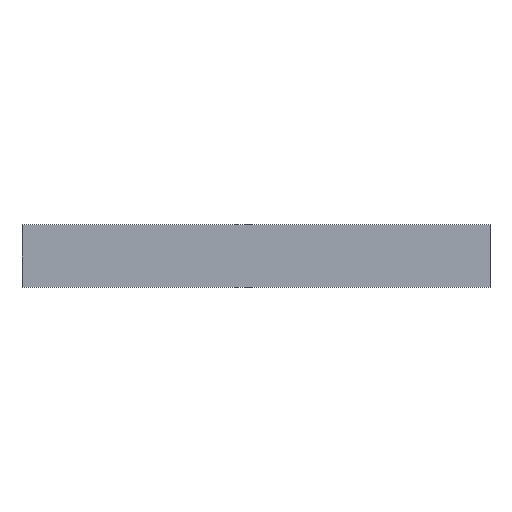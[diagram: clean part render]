
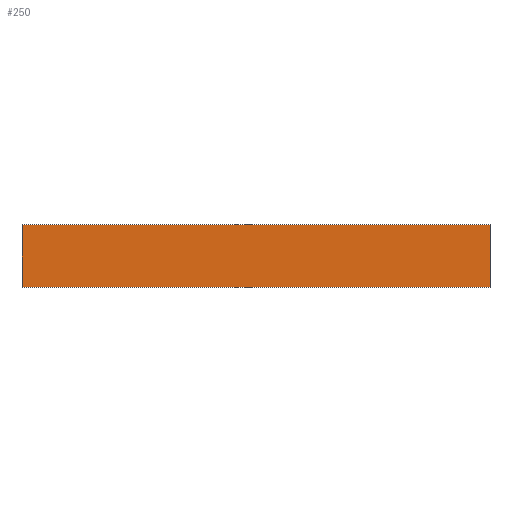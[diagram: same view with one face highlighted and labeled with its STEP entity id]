
A CAD part, top view. The second image highlights one B-rep face of the part: STEP entity #250.
In plain terms, the highlighted planar face has unit normal (0, 0, 1).
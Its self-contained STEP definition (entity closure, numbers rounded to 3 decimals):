
#32 = PLANE('',#33);
#33 = AXIS2_PLACEMENT_3D('',#34,#35,#36);
#34 = CARTESIAN_POINT('',(-400.,-50.,0.));
#35 = DIRECTION('',(0.,1.,0.));
#36 = DIRECTION('',(1.,0.,0.));
#57 = VERTEX_POINT('',#58);
#58 = CARTESIAN_POINT('',(-373.,-50.,3.));
#71 = PLANE('',#72);
#72 = AXIS2_PLACEMENT_3D('',#73,#74,#75);
#73 = CARTESIAN_POINT('',(-373.,-60.,25.));
#74 = DIRECTION('',(-1.,0.,0.));
#75 = DIRECTION('',(0.,0.,-1.));
#82 = EDGE_CURVE('',#57,#83,#85,.T.);
#83 = VERTEX_POINT('',#84);
#84 = CARTESIAN_POINT('',(373.,-50.,3.));
#85 = SURFACE_CURVE('',#86,(#90,#97),.PCURVE_S1.);
#86 = LINE('',#87,#88);
#87 = CARTESIAN_POINT('',(-400.,-50.,3.));
#88 = VECTOR('',#89,1.);
#89 = DIRECTION('',(1.,0.,0.));
#90 = PCURVE('',#32,#91);
#91 = DEFINITIONAL_REPRESENTATION('',(#92),#96);
#92 = LINE('',#93,#94);
#93 = CARTESIAN_POINT('',(0.,-3.));
#94 = VECTOR('',#95,1.);
#95 = DIRECTION('',(1.,0.));
#96 = ( GEOMETRIC_REPRESENTATION_CONTEXT(2) 
PARAMETRIC_REPRESENTATION_CONTEXT() REPRESENTATION_CONTEXT('2D SPACE',''
  ) );
#97 = PCURVE('',#98,#103);
#98 = PLANE('',#99);
#99 = AXIS2_PLACEMENT_3D('',#100,#101,#102);
#100 = CARTESIAN_POINT('',(0.,0.,3.));
#101 = DIRECTION('',(0.,0.,1.));
#102 = DIRECTION('',(1.,0.,-0.));
#103 = DEFINITIONAL_REPRESENTATION('',(#104),#108);
#104 = LINE('',#105,#106);
#105 = CARTESIAN_POINT('',(-400.,-50.));
#106 = VECTOR('',#107,1.);
#107 = DIRECTION('',(1.,0.));
#108 = ( GEOMETRIC_REPRESENTATION_CONTEXT(2) 
PARAMETRIC_REPRESENTATION_CONTEXT() REPRESENTATION_CONTEXT('2D SPACE',''
  ) );
#123 = PLANE('',#124);
#124 = AXIS2_PLACEMENT_3D('',#125,#126,#127);
#125 = CARTESIAN_POINT('',(373.,-60.,-25.));
#126 = DIRECTION('',(1.,0.,0.));
#127 = DIRECTION('',(0.,0.,1.));
#155 = PLANE('',#156);
#156 = AXIS2_PLACEMENT_3D('',#157,#158,#159);
#157 = CARTESIAN_POINT('',(400.,50.,0.));
#158 = DIRECTION('',(0.,-1.,0.));
#159 = DIRECTION('',(-1.,0.,0.));
#209 = EDGE_CURVE('',#83,#210,#212,.T.);
#210 = VERTEX_POINT('',#211);
#211 = CARTESIAN_POINT('',(373.,50.,3.));
#212 = SURFACE_CURVE('',#213,(#217,#223),.PCURVE_S1.);
#213 = LINE('',#214,#215);
#214 = CARTESIAN_POINT('',(373.,-30.,3.));
#215 = VECTOR('',#216,1.);
#216 = DIRECTION('',(0.,1.,0.));
#217 = PCURVE('',#123,#218);
#218 = DEFINITIONAL_REPRESENTATION('',(#219),#222);
#219 = B_SPLINE_CURVE_WITH_KNOTS('',1,(#220,#221),.UNSPECIFIED.,.F.,.F.,
  (2,2),(-20.,80.),.PIECEWISE_BEZIER_KNOTS.);
#220 = CARTESIAN_POINT('',(28.,-10.));
#221 = CARTESIAN_POINT('',(28.,-110.));
#222 = ( GEOMETRIC_REPRESENTATION_CONTEXT(2) 
PARAMETRIC_REPRESENTATION_CONTEXT() REPRESENTATION_CONTEXT('2D SPACE',''
  ) );
#223 = PCURVE('',#98,#224);
#224 = DEFINITIONAL_REPRESENTATION('',(#225),#228);
#225 = B_SPLINE_CURVE_WITH_KNOTS('',1,(#226,#227),.UNSPECIFIED.,.F.,.F.,
  (2,2),(-20.,80.),.PIECEWISE_BEZIER_KNOTS.);
#226 = CARTESIAN_POINT('',(373.,-50.));
#227 = CARTESIAN_POINT('',(373.,50.));
#228 = ( GEOMETRIC_REPRESENTATION_CONTEXT(2) 
PARAMETRIC_REPRESENTATION_CONTEXT() REPRESENTATION_CONTEXT('2D SPACE',''
  ) );
#250 = ADVANCED_FACE('',(#251),#98,.T.);
#251 = FACE_BOUND('',#252,.T.);
#252 = EDGE_LOOP('',(#253,#276,#295,#296));
#253 = ORIENTED_EDGE('',*,*,#254,.T.);
#254 = EDGE_CURVE('',#210,#255,#257,.T.);
#255 = VERTEX_POINT('',#256);
#256 = CARTESIAN_POINT('',(-373.,50.,3.));
#257 = SURFACE_CURVE('',#258,(#262,#269),.PCURVE_S1.);
#258 = LINE('',#259,#260);
#259 = CARTESIAN_POINT('',(400.,50.,3.));
#260 = VECTOR('',#261,1.);
#261 = DIRECTION('',(-1.,0.,0.));
#262 = PCURVE('',#98,#263);
#263 = DEFINITIONAL_REPRESENTATION('',(#264),#268);
#264 = LINE('',#265,#266);
#265 = CARTESIAN_POINT('',(400.,50.));
#266 = VECTOR('',#267,1.);
#267 = DIRECTION('',(-1.,0.));
#268 = ( GEOMETRIC_REPRESENTATION_CONTEXT(2) 
PARAMETRIC_REPRESENTATION_CONTEXT() REPRESENTATION_CONTEXT('2D SPACE',''
  ) );
#269 = PCURVE('',#155,#270);
#270 = DEFINITIONAL_REPRESENTATION('',(#271),#275);
#271 = LINE('',#272,#273);
#272 = CARTESIAN_POINT('',(0.,-3.));
#273 = VECTOR('',#274,1.);
#274 = DIRECTION('',(1.,0.));
#275 = ( GEOMETRIC_REPRESENTATION_CONTEXT(2) 
PARAMETRIC_REPRESENTATION_CONTEXT() REPRESENTATION_CONTEXT('2D SPACE',''
  ) );
#276 = ORIENTED_EDGE('',*,*,#277,.T.);
#277 = EDGE_CURVE('',#255,#57,#278,.T.);
#278 = SURFACE_CURVE('',#279,(#283,#289),.PCURVE_S1.);
#279 = LINE('',#280,#281);
#280 = CARTESIAN_POINT('',(-373.,-30.,3.));
#281 = VECTOR('',#282,1.);
#282 = DIRECTION('',(0.,-1.,0.));
#283 = PCURVE('',#98,#284);
#284 = DEFINITIONAL_REPRESENTATION('',(#285),#288);
#285 = B_SPLINE_CURVE_WITH_KNOTS('',1,(#286,#287),.UNSPECIFIED.,.F.,.F.,
  (2,2),(-80.,20.),.PIECEWISE_BEZIER_KNOTS.);
#286 = CARTESIAN_POINT('',(-373.,50.));
#287 = CARTESIAN_POINT('',(-373.,-50.));
#288 = ( GEOMETRIC_REPRESENTATION_CONTEXT(2) 
PARAMETRIC_REPRESENTATION_CONTEXT() REPRESENTATION_CONTEXT('2D SPACE',''
  ) );
#289 = PCURVE('',#71,#290);
#290 = DEFINITIONAL_REPRESENTATION('',(#291),#294);
#291 = B_SPLINE_CURVE_WITH_KNOTS('',1,(#292,#293),.UNSPECIFIED.,.F.,.F.,
  (2,2),(-80.,20.),.PIECEWISE_BEZIER_KNOTS.);
#292 = CARTESIAN_POINT('',(22.,-110.));
#293 = CARTESIAN_POINT('',(22.,-10.));
#294 = ( GEOMETRIC_REPRESENTATION_CONTEXT(2) 
PARAMETRIC_REPRESENTATION_CONTEXT() REPRESENTATION_CONTEXT('2D SPACE',''
  ) );
#295 = ORIENTED_EDGE('',*,*,#82,.T.);
#296 = ORIENTED_EDGE('',*,*,#209,.T.);
